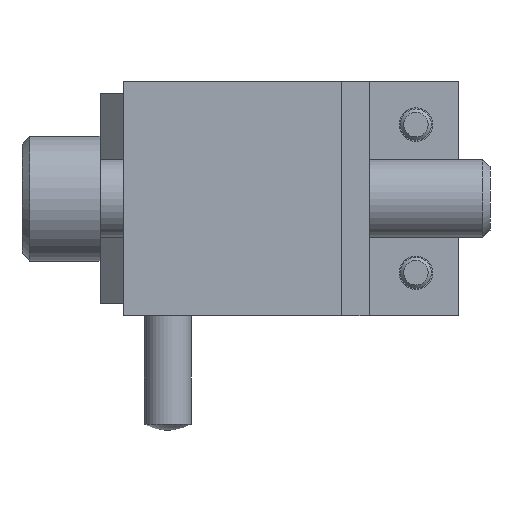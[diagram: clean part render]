
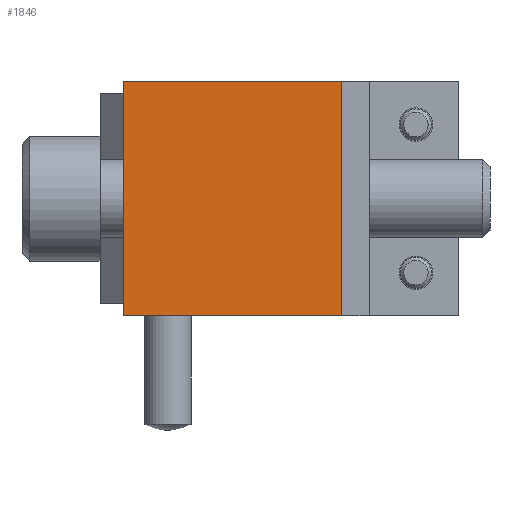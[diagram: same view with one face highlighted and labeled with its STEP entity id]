
A CAD part, left-side view. The second image highlights one B-rep face of the part: STEP entity #1846.
In plain terms, the highlighted planar face has unit normal (-1, 0, 0).
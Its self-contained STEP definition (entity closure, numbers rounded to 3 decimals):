
#173=ORIENTED_EDGE('',*,*,#635,.F.);
#174=ORIENTED_EDGE('',*,*,#636,.F.);
#175=ORIENTED_EDGE('',*,*,#637,.F.);
#176=ORIENTED_EDGE('',*,*,#638,.T.);
#635=EDGE_CURVE('',#866,#867,#1039,.T.);
#636=EDGE_CURVE('',#868,#866,#1040,.T.);
#637=EDGE_CURVE('',#869,#868,#1041,.T.);
#638=EDGE_CURVE('',#869,#867,#1042,.T.);
#866=VERTEX_POINT('',#2822);
#867=VERTEX_POINT('',#2823);
#868=VERTEX_POINT('',#2825);
#869=VERTEX_POINT('',#2827);
#1039=LINE('',#2821,#1216);
#1040=LINE('',#2824,#1217);
#1041=LINE('',#2826,#1218);
#1042=LINE('',#2828,#1219);
#1216=VECTOR('',#2272,1000.);
#1217=VECTOR('',#2273,1000.);
#1218=VECTOR('',#2274,1000.);
#1219=VECTOR('',#2275,1000.);
#1393=EDGE_LOOP('',(#173,#174,#175,#176));
#1576=FACE_BOUND('',#1393,.T.);
#1760=PLANE('',#2082);
#1846=ADVANCED_FACE('',(#1576),#1760,.F.);
#2082=AXIS2_PLACEMENT_3D('',#2820,#2270,#2271);
#2270=DIRECTION('',(1.,0.,0.));
#2271=DIRECTION('',(0.,0.,-1.));
#2272=DIRECTION('',(0.,0.,-1.));
#2273=DIRECTION('',(0.,-1.,0.));
#2274=DIRECTION('',(0.,0.,1.));
#2275=DIRECTION('',(0.,-1.,0.));
#2820=CARTESIAN_POINT('',(0.,31.5,-15.));
#2821=CARTESIAN_POINT('',(0.,3.5,-15.));
#2822=CARTESIAN_POINT('',(0.,3.5,15.));
#2823=CARTESIAN_POINT('',(0.,3.5,-15.));
#2824=CARTESIAN_POINT('',(0.,31.5,15.));
#2825=CARTESIAN_POINT('',(0.,31.5,15.));
#2826=CARTESIAN_POINT('',(0.,31.5,-15.));
#2827=CARTESIAN_POINT('',(0.,31.5,-15.));
#2828=CARTESIAN_POINT('',(0.,31.5,-15.));
